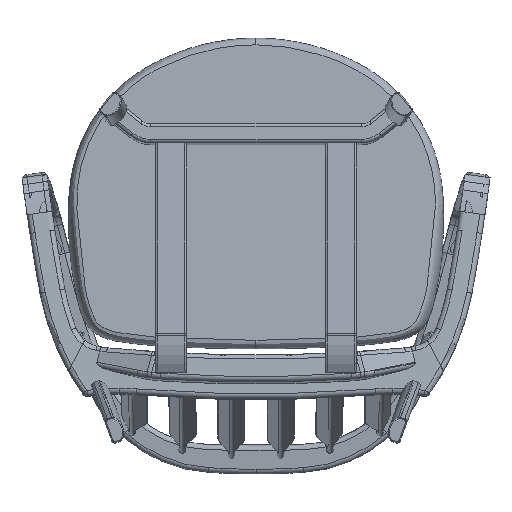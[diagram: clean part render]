
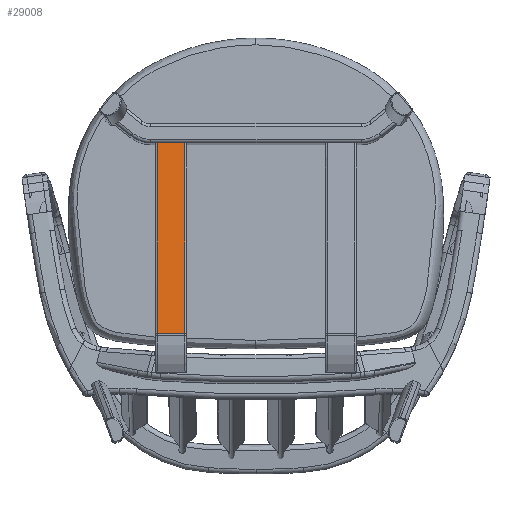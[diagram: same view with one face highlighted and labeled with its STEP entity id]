
A CAD part, front view. The second image highlights one B-rep face of the part: STEP entity #29008.
In plain terms, the highlighted planar face has unit normal (0, -0.995, 0.098).
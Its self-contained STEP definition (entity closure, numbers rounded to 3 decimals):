
#132 = LINE ( 'NONE', #36565, #5483 ) ;
#4163 = ORIENTED_EDGE ( 'NONE', *, *, #10441, .T. ) ;
#5483 = VECTOR ( 'NONE', #21282, 1000. ) ;
#5653 = PLANE ( 'NONE',  #36269 ) ;
#8640 = VECTOR ( 'NONE', #58881, 1000. ) ;
#8937 = DIRECTION ( 'NONE',  ( 1., 0., 0. ) ) ;
#10441 = EDGE_CURVE ( 'NONE', #21261, #35982, #11051, .T. ) ;
#11051 = LINE ( 'NONE', #37756, #8640 ) ;
#16523 = EDGE_LOOP ( 'NONE', ( #62230, #26666, #44004, #4163 ) ) ;
#18778 = CARTESIAN_POINT ( 'NONE',  ( -157., 242.505, 223.703 ) ) ;
#21261 = VERTEX_POINT ( 'NONE', #50061 ) ;
#21282 = DIRECTION ( 'NONE',  ( 1., 0., 0. ) ) ;
#21880 = CARTESIAN_POINT ( 'NONE',  ( -113., 242.505, 223.703 ) ) ;
#24752 = CARTESIAN_POINT ( 'NONE',  ( -113., 272.335, 526.255 ) ) ;
#26484 = DIRECTION ( 'NONE',  ( 0., -0.098, -0.995 ) ) ;
#26666 = ORIENTED_EDGE ( 'NONE', *, *, #48269, .T. ) ;
#29008 = ADVANCED_FACE ( 'NONE', ( #67765 ), #5653, .T. ) ;
#30433 = CARTESIAN_POINT ( 'NONE',  ( -638.661, 242.505, 223.703 ) ) ;
#30973 = DIRECTION ( 'NONE',  ( 0., 0.098, 0.995 ) ) ;
#31071 = VERTEX_POINT ( 'NONE', #21880 ) ;
#33999 = EDGE_CURVE ( 'NONE', #35982, #31071, #67530, .T. ) ;
#34379 = VERTEX_POINT ( 'NONE', #36583 ) ;
#35982 = VERTEX_POINT ( 'NONE', #18778 ) ;
#36269 = AXIS2_PLACEMENT_3D ( 'NONE', #36559, #41754, #26484 ) ;
#36559 = CARTESIAN_POINT ( 'NONE',  ( -638.661, 272.335, 526.255 ) ) ;
#36565 = CARTESIAN_POINT ( 'NONE',  ( -638.661, 272.335, 526.255 ) ) ;
#36583 = CARTESIAN_POINT ( 'NONE',  ( -113., 272.335, 526.255 ) ) ;
#37619 = VECTOR ( 'NONE', #8937, 1000. ) ;
#37756 = CARTESIAN_POINT ( 'NONE',  ( -157., 272.335, 526.255 ) ) ;
#41013 = EDGE_CURVE ( 'NONE', #21261, #34379, #132, .T. ) ;
#41754 = DIRECTION ( 'NONE',  ( 0., -0.995, 0.098 ) ) ;
#44004 = ORIENTED_EDGE ( 'NONE', *, *, #41013, .F. ) ;
#44532 = LINE ( 'NONE', #24752, #57988 ) ;
#48269 = EDGE_CURVE ( 'NONE', #31071, #34379, #44532, .T. ) ;
#50061 = CARTESIAN_POINT ( 'NONE',  ( -157., 272.335, 526.255 ) ) ;
#57988 = VECTOR ( 'NONE', #30973, 1000. ) ;
#58881 = DIRECTION ( 'NONE',  ( 0., -0.098, -0.995 ) ) ;
#62230 = ORIENTED_EDGE ( 'NONE', *, *, #33999, .T. ) ;
#67530 = LINE ( 'NONE', #30433, #37619 ) ;
#67765 = FACE_OUTER_BOUND ( 'NONE', #16523, .T. ) ;
